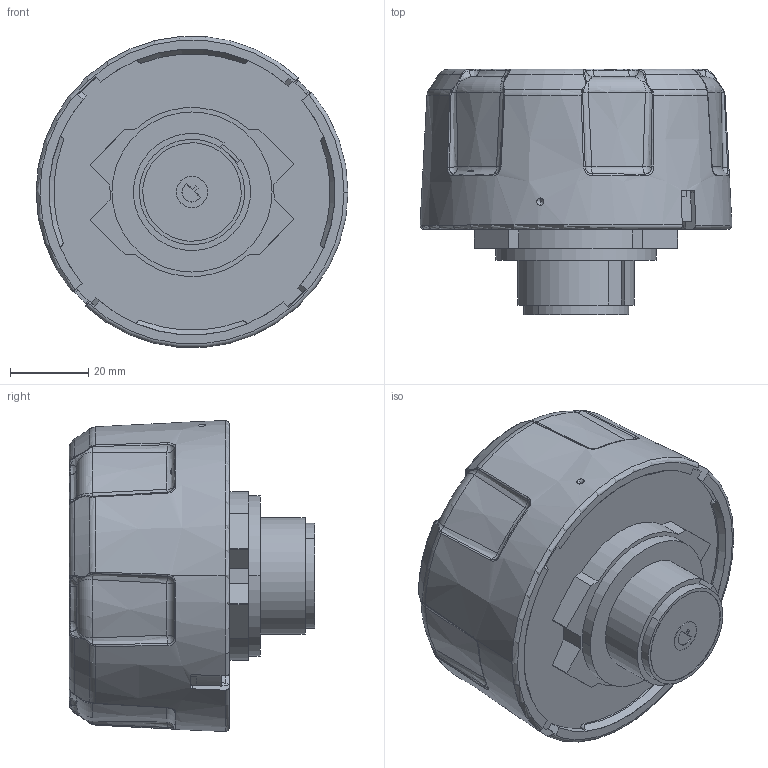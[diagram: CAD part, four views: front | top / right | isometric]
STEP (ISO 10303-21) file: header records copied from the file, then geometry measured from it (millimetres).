
FILE_DESCRIPTION((''),'2;1');
FILE_NAME('PRT0009','2017-09-26T',('f.kollmann'),(''),'PRO/ENGINEER BY PARAMETRIC TECHNOLOGY CORPORATION, 2015110','PRO/ENGINEER BY PARAMETRIC TECHNOLOGY CORPORATION, 2015110','');
FILE_SCHEMA(('AUTOMOTIVE_DESIGN { 1 0 10303 214 1 1 1 1 }'));
Length unit declared in the file: millimetre
Products named in the file (1): PRT0009
Bounding box: 79.89 x 62.92 x 79.65 mm (x, y, z)
Volume: 203590.9 mm3; surface area: 23368.6 mm2
Topology: 1 solids, 3 shells, 402 faces, 1004 edges, 620 vertices
Faces by surface type: bspline 178, plane 85, cylinder 60, cone 39, torus 28, sphere 12
Entity records: 21497 total; most frequent: CARTESIAN_POINT 9987, ORIENTED_EDGE 2008, DIRECTION 1087, PRESENTATION_STYLE_ASSIGNMENT 1042, STYLED_ITEM 1026, CURVE_STYLE 1004, EDGE_CURVE 1004, VERTEX_POINT 620
